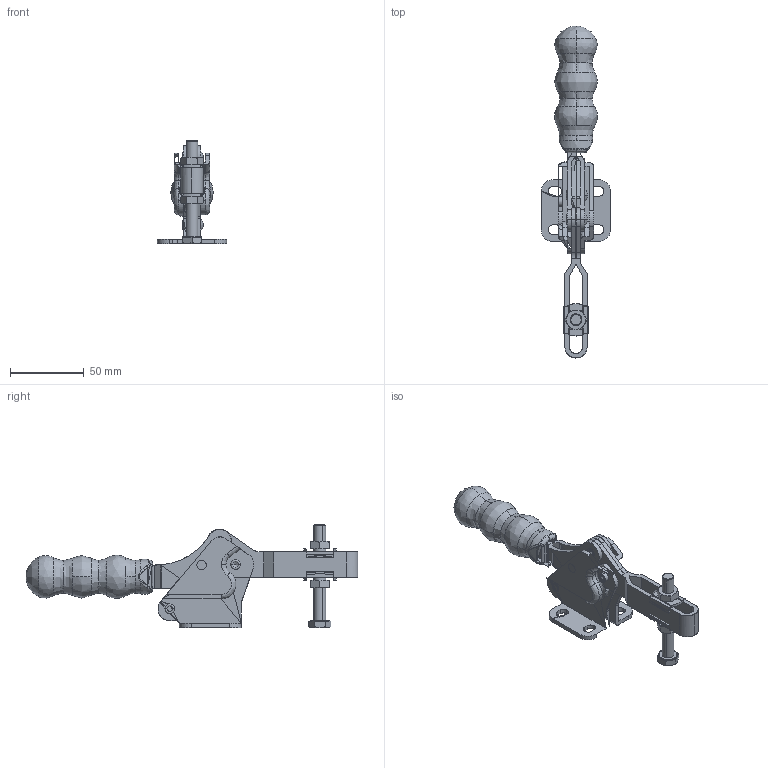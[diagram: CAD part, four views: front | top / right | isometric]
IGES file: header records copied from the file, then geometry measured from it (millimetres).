
Start section: 3D InterOp IGES (Version 17 0 1), Spatial Corp. Copyright (c) 1999-2007.
Global section: file name: NoName; native system: Spatial Corp.; preprocessor: 3D InterOp ACIS/IGES; author: Noname; organization: Noname; date: 20221016.153930; units: inch
Bounding box: 47 x 225 x 70 mm (x, y, z)
Volume: 67022.5 mm3; surface area: 40255.6 mm2
Topology: 16 solids, 16 shells, 473 faces, 1346 edges, 927 vertices
Faces by surface type: bspline 473
